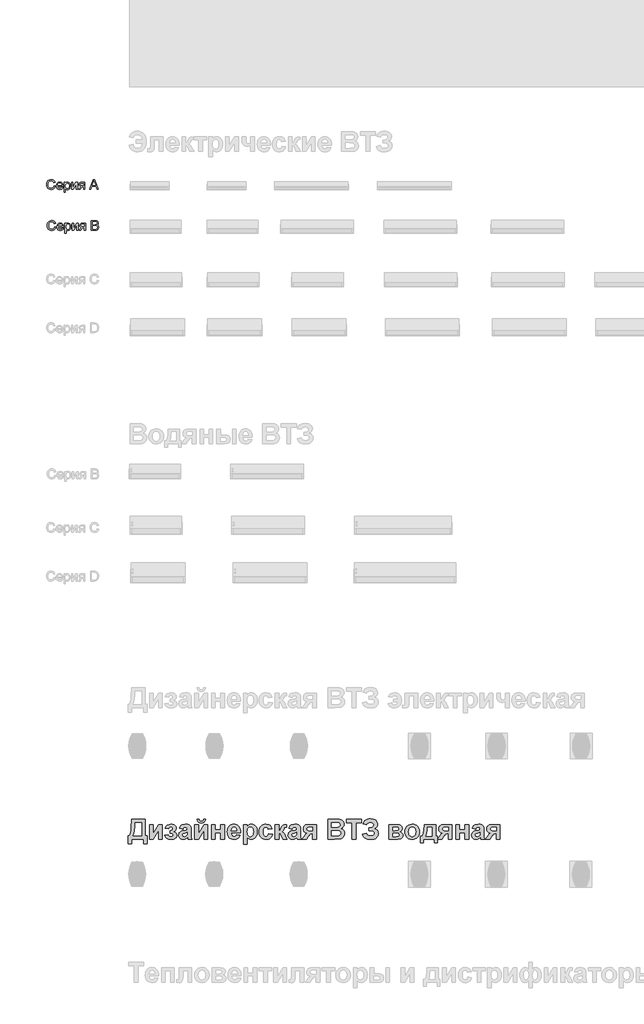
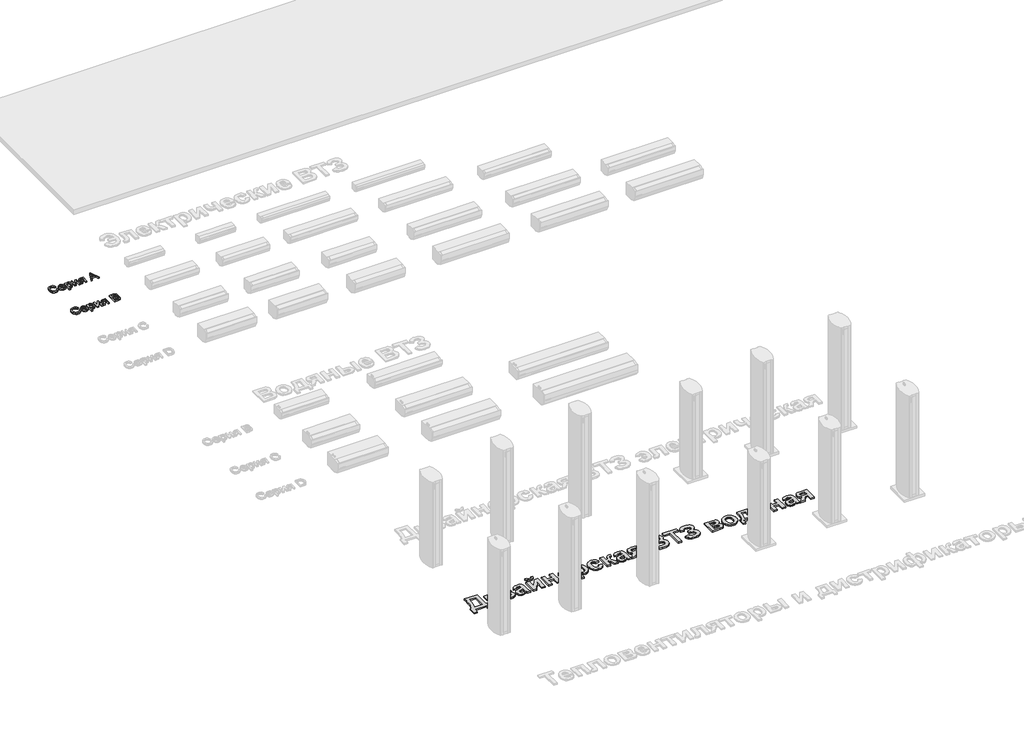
# One storey, part 5 of 8: 3 proxies.
"""IFC4 building model written with IfcOpenShell, lengths in millimetres."""

from ifc_helpers import new_model, si_unit, origin, origin_with_axes, place, context, project, spatial, polyline, outline, extrude, element, save

model = new_model("IFC4")

# Units and contexts
model_context = context("Model", 3, world=origin())
ifc_project = project(units=[si_unit("LENGTHUNIT", "METRE", prefix="MILLI")], contexts=[model_context])

# Site, building, storey
site = spatial("IfcSite", under=ifc_project)
building = spatial("IfcBuilding", under=site)
storey = spatial("IfcBuildingStorey", under=building, Name="Уровень 1", Elevation=0.0)

# Proxies
placement = place(None, origin())
element("IfcBuildingElementProxy", 1, Name="ИЗТТ_Текст2", ObjectType="ИЗТТ_Текст2", at=placement, inside=storey, context=model_context, shape_type="SweptSolid", body=[
    extrude(outline(polyline([(-16894.6382587, 15862.2564624), (-16869.5241811, 15855.7817392), (-16881.112464, 15826.5167265), (-16899.2980973, 15805.1366512), (-16923.1859015, 15792.0584463), (-16951.8806971, 15787.6990447), (-16981.0108198, 15790.9977199), (-17004.1444659, 15800.8937456), (-17021.8763781, 15817.0437651), (-17034.8012988, 15839.1044221), (-17042.6923676, 15865.0401028), (-17045.3227239, 15892.8151934), (-17042.3490111, 15922.110863), (-17033.4278727, 15947.4088815), (-17019.0252926, 15967.90604), (-16999.6072546, 15982.7991294), (-16976.5778417, 15991.8674206), (-16951.3411369, 15994.8901843), (-16923.8051695, 15990.9783725), (-16901.0394054, 15979.2429368), (-16883.755083, 15960.4073787), (-16872.6634408, 15935.1951993), (-16897.7775184, 15929.2109855), (-16906.4840589, 15947.5253775), (-16918.3789101, 15960.0885476), (-16933.6092247, 15967.354217), (-16952.3221555, 15969.7761068), (-16973.8923032, 15967.0905682), (-16991.6119526, 15959.0339526), (-17005.0580395, 15946.4523883), (-17013.8074996, 15930.1920041), (-17018.6083597, 15911.8101671), (-17020.2086464, 15892.8642444), (-17018.3140541, 15869.6631532), (-17012.6302773, 15849.6013217), (-17002.9427181, 15833.4451708), (-16989.0367786, 15821.9611212), (-16972.3655929, 15815.1001219), (-16954.3822947, 15812.8131222), (-16933.4191523, 15815.9278564), (-16915.9508889, 15825.2720591), (-16902.7623194, 15840.7476284), (-16894.6382587, 15862.2564624)])), origin_with_axes(), (0.0, 0.0, 1.0), 30.0),
    extrude(outline(polyline([(-16734.83032, 15834.78794), (-16710.2067518, 15831.6486804), (-16719.0788392, 15813.0951651), (-16733.2361647, 15799.2260138), (-16752.359897, 15790.580787), (-16776.1312053, 15787.6990447), (-16805.5985531, 15792.671583), (-16828.2723467, 15807.5891979), (-16842.7301092, 15831.4831335), (-16847.5493633, 15863.3846338), (-16842.6810582, 15896.3591233), (-16828.076143, 15921.0194797), (-16805.7089177, 15936.3969471), (-16777.5536823, 15941.5227696), (-16750.2752324, 15936.4092098), (-16728.4782242, 15921.0685307), (-16714.1860087, 15896.4572252), (-16709.4219368, 15863.5317866), (-16709.5690896, 15856.7627579), (-16822.4352858, 15856.7627579), (-16818.0881468, 15837.9639879), (-16807.9897861, 15824.1438877), (-16793.4155277, 15815.6458136), (-16775.640696, 15812.8131222), (-16751.0171278, 15818.061572), (-16741.8691288, 15824.8673889), (-16734.83032, 15834.78794)]), holes=[polyline([(-16822.4352858, 15881.8768354), (-16734.5360144, 15881.8768354), (-16737.9327915, 15895.1451127), (-16744.5914556, 15904.6364682), (-16759.233159, 15913.4656361), (-16777.6517842, 15916.408692), (-16794.5804874, 15914.0603786), (-16808.5783973, 15907.0154384), (-16818.308876, 15896.0341609), (-16822.4352858, 15881.8768354)])]), origin_with_axes(), (0.0, 0.0, 1.0), 30.0),
    extrude(outline(polyline([(-16684.3078593, 15734.3316299), (-16684.3078593, 15938.3835099), (-16659.1937818, 15938.3835099), (-16659.1937818, 15913.7599417), (-16641.8297516, 15934.5820626), (-16631.1366483, 15939.7875928), (-16618.3834058, 15941.5227696), (-16601.3995203, 15939.0947484), (-16586.5493504, 15931.8106849), (-16574.4582955, 15920.1120375), (-16565.751755, 15904.4402645), (-16560.4910425, 15885.9358001), (-16558.7374716, 15865.7390786), (-16560.717903, 15844.2609014), (-16566.6591972, 15825.0513299), (-16576.3712819, 15809.0852513), (-16589.6640847, 15797.3375529), (-16605.1457853, 15790.1086717), (-16621.4245636, 15787.6990447), (-16632.9699269, 15789.3115941), (-16643.2767541, 15794.1492423), (-16659.1937818, 15810.4586774), (-16659.1937818, 15734.3316299), (-16684.3078593, 15734.3316299)]), holes=[polyline([(-16659.1937818, 15863.4336847), (-16656.4775864, 15840.9193066), (-16648.3290002, 15825.1739572), (-16636.3053903, 15815.903331), (-16621.9641238, 15812.8131222), (-16607.3898655, 15816.0136956), (-16595.0596873, 15825.6154156), (-16586.6535837, 15841.9371135), (-16583.8515491, 15865.2976202), (-16586.5861386, 15887.689371), (-16594.7899071, 15903.6554495), (-16606.7951229, 15913.2203814), (-16620.9340543, 15916.408692), (-16635.1281679, 15913.0180463), (-16647.5932362, 15902.8461092), (-16656.2936454, 15886.2117116), (-16659.1937818, 15863.4336847)])]), origin_with_axes(), (0.0, 0.0, 1.0), 30.0),
    extrude(outline(polyline([(-16530.4841344, 15938.3835099), (-16505.3700568, 15938.3835099), (-16505.3700568, 15825.8606703), (-16443.6639835, 15938.3835099), (-16411.1922661, 15938.3835099), (-16411.1922661, 15790.8383044), (-16436.3063436, 15790.8383044), (-16436.3063436, 15902.6744309), (-16497.6200095, 15790.8383044), (-16530.4841344, 15790.8383044), (-16530.4841344, 15938.3835099)])), origin_with_axes(), (0.0, 0.0, 1.0), 30.0),
    extrude(outline(polyline([(-16260.5078009, 15938.3835099), (-16260.5078009, 15790.8383044), (-16285.6218784, 15790.8383044), (-16285.6218784, 15847.3449788), (-16299.3070886, 15847.3449788), (-16317.946443, 15844.1566682), (-16335.457626, 15822.7214106), (-16355.4704065, 15790.8383044), (-16384.5085587, 15790.8383044), (-16359.2963793, 15831.158171), (-16348.1618176, 15845.6281962), (-16337.9101726, 15852.0538684), (-16355.0779991, 15857.3145809), (-16367.1445285, 15867.3087084), (-16374.2814392, 15880.6015112), (-16376.6604095, 15895.7582494), (-16373.4107852, 15912.9506013), (-16363.6619123, 15926.5622351), (-16347.7571474, 15935.4281912), (-16326.0398469, 15938.3835099), (-16260.5078009, 15938.3835099)]), holes=[polyline([(-16285.6218784, 15913.2694324), (-16318.731258, 15913.2694324), (-16335.8316394, 15911.8162985), (-16345.5375927, 15907.4568968), (-16351.5463319, 15893.845263), (-16349.3329086, 15884.2741998), (-16342.6926386, 15877.6339298), (-16330.423774, 15873.7527747), (-16311.3245671, 15872.4590564), (-16285.6218784, 15872.4590564), (-16285.6218784, 15913.2694324)])]), origin_with_axes(), (0.0, 0.0, 1.0), 30.0),
    extrude(outline(polyline([(-16164.6132274, 15790.8383044), (-16084.4149525, 15991.7509247), (-16063.0287458, 15991.7509247), (-15982.8304709, 15790.8383044), (-16009.3670255, 15790.8383044), (-16032.3719129, 15853.6234982), (-16115.1208364, 15853.6234982), (-16138.0766729, 15790.8383044), (-16164.6132274, 15790.8383044)]), holes=[polyline([(-16105.899261, 15878.7375757), (-16041.5444373, 15878.7375757), (-16059.6442315, 15928.131865), (-16073.7218492, 15966.6368471), (-16086.229837, 15932.448347), (-16105.899261, 15878.7375757)])]), origin_with_axes(), (0.0, 0.0, 1.0), 30.0),
])
element("IfcBuildingElementProxy", 2, Name="ИЗТТ_Текст2", ObjectType="ИЗТТ_Текст2", at=placement, inside=storey, context=model_context, shape_type="SweptSolid", body=[
    extrude(outline(polyline([(-16881.6825838, 15022.2564624), (-16856.5685062, 15015.7817392), (-16868.1567891, 14986.5167265), (-16886.3424224, 14965.1366512), (-16910.2302266, 14952.0584463), (-16938.9250222, 14947.6990447), (-16968.0551449, 14950.9977199), (-16991.188791, 14960.8937456), (-17008.9207032, 14977.0437651), (-17021.8456239, 14999.1044221), (-17029.7366927, 15025.0401028), (-17032.367049, 15052.8151934), (-17029.3933362, 15082.110863), (-17020.4721978, 15107.4088815), (-17006.0696177, 15127.90604), (-16986.6515797, 15142.7991294), (-16963.6221668, 15151.8674206), (-16938.3854619, 15154.8901843), (-16910.8494946, 15150.9783725), (-16888.0837305, 15139.2429368), (-16870.7994081, 15120.4073787), (-16859.7077659, 15095.1951993), (-16884.8218434, 15089.2109855), (-16893.528384, 15107.5253775), (-16905.4232352, 15120.0885476), (-16920.6535498, 15127.354217), (-16939.3664806, 15129.7761068), (-16960.9366282, 15127.0905682), (-16978.6562777, 15119.0339526), (-16992.1023646, 15106.4523883), (-17000.8518247, 15090.1920041), (-17005.6526848, 15071.8101671), (-17007.2529714, 15052.8642444), (-17005.3583792, 15029.6631532), (-16999.6746023, 15009.6013217), (-16989.9870431, 14993.4451708), (-16976.0811037, 14981.9611212), (-16959.409918, 14975.1001219), (-16941.4266198, 14972.8131222), (-16920.4634774, 14975.9278564), (-16902.995214, 14985.2720591), (-16889.8066445, 15000.7476284), (-16881.6825838, 15022.2564624)])), origin_with_axes(), (0.0, 0.0, 1.0), 30.0),
    extrude(outline(polyline([(-16721.874645, 14994.78794), (-16697.2510768, 14991.6486804), (-16706.1231643, 14973.0951651), (-16720.2804897, 14959.2260138), (-16739.4042221, 14950.580787), (-16763.1755304, 14947.6990447), (-16792.6428782, 14952.671583), (-16815.3166718, 14967.5891979), (-16829.7744342, 14991.4831335), (-16834.5936884, 15023.3846338), (-16829.7253833, 15056.3591233), (-16815.1204681, 15081.0194797), (-16792.7532428, 15096.3969471), (-16764.5980074, 15101.5227696), (-16737.3195575, 15096.4092098), (-16715.5225493, 15081.0685307), (-16701.2303338, 15056.4572252), (-16696.4662619, 15023.5317866), (-16696.6134147, 15016.7627579), (-16809.4796108, 15016.7627579), (-16805.1324719, 14997.9639879), (-16795.0341112, 14984.1438877), (-16780.4598528, 14975.6458136), (-16762.685021, 14972.8131222), (-16738.0614528, 14978.061572), (-16728.9134539, 14984.8673889), (-16721.874645, 14994.78794)]), holes=[polyline([(-16809.4796108, 15041.8768354), (-16721.5803395, 15041.8768354), (-16724.9771165, 15055.1451127), (-16731.6357807, 15064.6364682), (-16746.2774841, 15073.4656361), (-16764.6961093, 15076.408692), (-16781.6248124, 15074.0603786), (-16795.6227223, 15067.0154384), (-16805.3532011, 15056.0341609), (-16809.4796108, 15041.8768354)])]), origin_with_axes(), (0.0, 0.0, 1.0), 30.0),
    extrude(outline(polyline([(-16671.3521844, 14894.3316299), (-16671.3521844, 15098.3835099), (-16646.2381068, 15098.3835099), (-16646.2381068, 15073.7599417), (-16628.8740767, 15094.5820626), (-16618.1809733, 15099.7875928), (-16605.4277308, 15101.5227696), (-16588.4438454, 15099.0947484), (-16573.5936755, 15091.8106849), (-16561.5026206, 15080.1120375), (-16552.7960801, 15064.4402645), (-16547.5353675, 15045.9358001), (-16545.7817967, 15025.7390786), (-16547.7622281, 15004.2609014), (-16553.7035223, 14985.0513299), (-16563.415607, 14969.0852513), (-16576.7084098, 14957.3375529), (-16592.1901104, 14950.1086717), (-16608.4688887, 14947.6990447), (-16620.014252, 14949.3115941), (-16630.3210792, 14954.1492423), (-16646.2381068, 14970.4586774), (-16646.2381068, 14894.3316299), (-16671.3521844, 14894.3316299)]), holes=[polyline([(-16646.2381068, 15023.4336847), (-16643.5219114, 15000.9193066), (-16635.3733253, 14985.1739572), (-16623.3497154, 14975.903331), (-16609.0084489, 14972.8131222), (-16594.4341906, 14976.0136956), (-16582.1040123, 14985.6154156), (-16573.6979088, 15001.9371135), (-16570.8958742, 15025.2976202), (-16573.6304637, 15047.689371), (-16581.8342322, 15063.6554495), (-16593.839448, 15073.2203814), (-16607.9783793, 15076.408692), (-16622.172493, 15073.0180463), (-16634.6375613, 15062.8461092), (-16643.3379704, 15046.2117116), (-16646.2381068, 15023.4336847)])]), origin_with_axes(), (0.0, 0.0, 1.0), 30.0),
    extrude(outline(polyline([(-16517.5284595, 15098.3835099), (-16492.4143819, 15098.3835099), (-16492.4143819, 14985.8606703), (-16430.7083086, 15098.3835099), (-16398.2365912, 15098.3835099), (-16398.2365912, 14950.8383044), (-16423.3506687, 14950.8383044), (-16423.3506687, 15062.6744309), (-16484.6643346, 14950.8383044), (-16517.5284595, 14950.8383044), (-16517.5284595, 15098.3835099)])), origin_with_axes(), (0.0, 0.0, 1.0), 30.0),
    extrude(outline(polyline([(-16247.5521259, 15098.3835099), (-16247.5521259, 14950.8383044), (-16272.6662035, 14950.8383044), (-16272.6662035, 15007.3449788), (-16286.3514137, 15007.3449788), (-16304.9907681, 15004.1566682), (-16322.5019511, 14982.7214106), (-16342.5147316, 14950.8383044), (-16371.5528838, 14950.8383044), (-16346.3407044, 14991.158171), (-16335.2061427, 15005.6281962), (-16324.9544977, 15012.0538684), (-16342.1223242, 15017.3145809), (-16354.1888536, 15027.3087084), (-16361.3257643, 15040.6015112), (-16363.7047345, 15055.7582494), (-16360.4551103, 15072.9506013), (-16350.7062374, 15086.5622351), (-16334.8014725, 15095.4281912), (-16313.084172, 15098.3835099), (-16247.5521259, 15098.3835099)]), holes=[polyline([(-16272.6662035, 15073.2694324), (-16305.775583, 15073.2694324), (-16322.8759644, 15071.8162985), (-16332.5819178, 15067.4568968), (-16338.590657, 15053.845263), (-16336.3772337, 15044.2741998), (-16329.7369637, 15037.6339298), (-16317.4680991, 15033.7527747), (-16298.3688922, 15032.4590564), (-16272.6662035, 15032.4590564), (-16272.6662035, 15073.2694324)])]), origin_with_axes(), (0.0, 0.0, 1.0), 30.0),
    extrude(outline(polyline([(-16128.2602576, 14950.8383044), (-16128.2602576, 15151.7509247), (-16051.5936498, 15151.7509247), (-16030.5078801, 15150.2732653), (-16014.0451609, 15145.8402873), (-16001.4268084, 15138.3416259), (-15991.8741393, 15127.6669167), (-15985.8592687, 15115.1098779), (-15983.8543118, 15101.964228), (-15985.5404376, 15089.8670417), (-15990.598815, 15078.4933567), (-15999.0662323, 15068.5421487), (-16010.9794776, 15060.7123936), (-15996.7485757, 15053.2811773), (-15986.233282, 15041.9749373), (-15979.7401648, 15027.5417004), (-15977.5757924, 15010.7294932), (-15983.4864298, 14983.7269547), (-15998.1281332, 14964.4989891), (-16019.9803237, 14954.2963951), (-16052.182261, 14950.8383044), (-16128.2602576, 14950.8383044)]), holes=[polyline([(-16103.1461801, 15070.1301727), (-16057.283558, 15070.1301727), (-16030.5017488, 15072.2884137), (-16014.3885174, 15081.5835654), (-16008.9683893, 15097.9420515), (-16014.0206354, 15114.325063), (-16028.4906605, 15124.0126222), (-16060.7661743, 15126.6368471), (-16103.1461801, 15126.6368471), (-16103.1461801, 15070.1301727)]), polyline([(-16103.1461801, 14975.9523819), (-16051.6427008, 14975.9523819), (-16033.0033463, 14976.9334005), (-16017.2334715, 14982.4025795), (-16006.7856228, 14993.5616667), (-16002.6898699, 15010.4842385), (-16007.4968613, 15030.0065097), (-16013.7937748, 15037.0637127), (-16023.0705325, 15041.6561062), (-16054.0952474, 15045.0160951), (-16103.1461801, 15045.0160951), (-16103.1461801, 14975.9523819)])]), origin_with_axes(), (0.0, 0.0, 1.0), 30.0),
])
element("IfcBuildingElementProxy", 3, Name="ИЗТТ_Текст1", ObjectType="ИЗТТ_Текст1", at=placement, inside=storey, context=model_context, shape_type="SweptSolid", body=[
    extrude(outline(polyline([(-15301.8566693, 2859.1310896), (-15016.8318211, 2859.1310896), (-15016.8318211, 2522.2835417), (-14984.4426338, 2522.2835417), (-14984.4426338, 2360.3376052), (-15055.6988459, 2360.3376052), (-15055.6988459, 2451.0273296), (-15301.8566693, 2451.0273296), (-15301.8566693, 2360.3376052), (-15373.1128814, 2360.3376052), (-15373.1128814, 2522.2835417), (-15340.7236941, 2522.2835417), (-15320.9991851, 2578.3826263), (-15309.397277, 2642.8320482), (-15303.7418213, 2720.5154896), (-15301.8566693, 2816.3166326), (-15301.8566693, 2859.1310896)]), holes=[polyline([(-15224.1226198, 2787.8748775), (-15226.5518089, 2702.9544771), (-15233.839376, 2630.3824543), (-15245.9853213, 2570.1588092), (-15262.9896446, 2522.2835417), (-15094.5658706, 2522.2835417), (-15094.5658706, 2787.8748775), (-15224.1226198, 2787.8748775)])]), origin_with_axes(), (0.0, 0.0, 1.0), 30.0),
    extrude(outline(polyline([(-14932.6199341, 2749.0078528), (-14854.8858846, 2749.0078528), (-14854.8858846, 2565.7052959), (-14744.7626478, 2749.0078528), (-14667.0285983, 2749.0078528), (-14667.0285983, 2451.0273296), (-14744.7626478, 2451.0273296), (-14744.7626478, 2634.4311027), (-14854.8858846, 2451.0273296), (-14932.6199341, 2451.0273296), (-14932.6199341, 2749.0078528)])), origin_with_axes(), (0.0, 0.0, 1.0), 30.0),
    extrude(outline(polyline([(-14505.0826618, 2574.1062414), (-14505.0826618, 2625.928941), (-14477.3494201, 2628.6111706), (-14468.9611267, 2633.2165082), (-14461.0030022, 2641.6680617), (-14455.1957221, 2652.7891929), (-14453.2599621, 2665.4032631), (-14455.613239, 2679.0421474), (-14462.6730696, 2691.6182615), (-14474.4647581, 2700.6518083), (-14491.0136085, 2703.6629906), (-14504.703101, 2701.967619), (-14516.8237422, 2696.8815045), (-14527.6538767, 2685.4693768), (-14537.4718491, 2664.7959658), (-14608.7280611, 2677.7516407), (-14602.3640919, 2695.9705586), (-14593.1913728, 2711.7602874), (-14581.2099039, 2725.1208272), (-14566.4196852, 2736.0521779), (-14531.7784372, 2750.6273122), (-14492.6330679, 2755.4856902), (-14467.7528582, 2753.9547951), (-14445.8458747, 2749.3621095), (-14426.9121173, 2741.7076336), (-14410.9515862, 2730.9913674), (-14398.2869079, 2717.9597803), (-14389.2407091, 2703.3593419), (-14383.8129898, 2687.1900523), (-14382.00375, 2669.4519115), (-14385.1288005, 2648.3483316), (-14394.503952, 2631.192184), (-14410.6352855, 2616.5411375), (-14434.0288821, 2602.9528613), (-14405.5365189, 2591.6166457), (-14385.2426688, 2575.6244845), (-14373.0967235, 2555.0522898), (-14369.0480751, 2529.9759737), (-14371.0502583, 2513.0791926), (-14377.0568077, 2497.409658), (-14387.0677235, 2482.96737), (-14401.0830057, 2469.7523285), (-14418.8622656, 2458.7260876), (-14440.1651149, 2450.8502013), (-14464.9915535, 2446.1246694), (-14493.3415814, 2444.5494922), (-14540.6854637, 2449.8127351), (-14560.542819, 2456.3917888), (-14577.857117, 2465.6024639), (-14592.6283577, 2477.4447605), (-14604.8565411, 2491.9186786), (-14614.5416672, 2509.0242181), (-14621.683736, 2528.7613791), (-14550.427524, 2541.7170541), (-14540.5462915, 2521.8786768), (-14527.9069172, 2507.7084074), (-14512.5094012, 2499.2062457), (-14494.3537435, 2496.3721918), (-14474.9328831, 2499.332766), (-14459.7884076, 2508.2144885), (-14450.0336954, 2521.0942512), (-14446.7821246, 2536.0489463), (-14449.9577832, 2551.9398913), (-14459.484759, 2563.9846203), (-14474.1484575, 2571.5758361), (-14492.7342841, 2574.1062414), (-14505.0826618, 2574.1062414)])), origin_with_axes(), (0.0, 0.0, 1.0), 30.0),
    extrude(outline(polyline([(-14245.9691634, 2658.3181283), (-14317.2253754, 2671.2738033), (-14301.7772513, 2708.6225849), (-14290.9692579, 2723.121807), (-14278.1053101, 2734.8375833), (-14262.5338288, 2743.8711301), (-14243.6032344, 2750.3236635), (-14195.6647068, 2755.4856902), (-14152.3188648, 2752.3606398), (-14121.6756571, 2742.9854883), (-14100.9769421, 2728.8152188), (-14087.464578, 2711.3048144), (-14080.0251866, 2684.0903059), (-14077.5453894, 2640.807724), (-14077.5453894, 2548.903405), (-14073.4461329, 2491.0077327), (-14058.111877, 2451.0273296), (-14135.8459265, 2451.0273296), (-14143.1334937, 2475.7240849), (-14145.8663314, 2485.5420573), (-14165.9830532, 2467.6394401), (-14187.4661938, 2454.8229375), (-14210.3663614, 2447.1178535), (-14234.734164, 2444.5494922), (-14255.7270386, 2446.1088544), (-14274.3729624, 2450.7869411), (-14290.6719352, 2458.5837523), (-14304.6239572, 2469.499288), (-14315.8051855, 2482.7934046), (-14323.7917771, 2497.7259587), (-14328.583732, 2514.2969501), (-14330.1810503, 2532.5063789), (-14327.3343444, 2556.3427965), (-14318.7942267, 2577.4463763), (-14305.1173863, 2594.8808685), (-14286.8605123, 2607.7100232), (-14261.7841962, 2617.5532996), (-14227.6490293, 2626.0301573), (-14183.4428494, 2636.025258), (-14155.2794389, 2645.3624534), (-14155.2794389, 2653.5609665), (-14157.6959759, 2673.7536004), (-14164.945587, 2687.1647483), (-14178.8754679, 2694.6800519), (-14201.3328146, 2697.1851531), (-14217.4514961, 2695.0343086), (-14229.5721373, 2688.5817752), (-14238.7322043, 2676.7141746), (-14245.9691634, 2658.3181283)]), holes=[polyline([(-14155.2794389, 2587.0619163), (-14199.106058, 2576.2823899), (-14238.3779476, 2563.9846203), (-14248.9297375, 2552.9267494), (-14252.4470008, 2539.1866488), (-14249.625599, 2525.4085922), (-14241.1613934, 2513.6295557), (-14228.3448907, 2505.5449109), (-14212.4665977, 2502.8500293), (-14193.4126462, 2505.9877318), (-14175.3202486, 2515.4008394), (-14164.439506, 2525.9779334), (-14158.1134928, 2538.6805678), (-14155.2794389, 2572.9928631), (-14155.2794389, 2587.0619163)])]), origin_with_axes(), (0.0, 0.0, 1.0), 30.0),
    extrude(outline(polyline([(-13818.431891, 2859.1310896), (-13779.5648662, 2859.1310896), (-13787.9278556, 2826.7039462), (-13795.8764911, 2813.4224816), (-13806.3365539, 2802.0957551), (-13833.2221097, 2786.5717188), (-13867.0156719, 2781.3970401), (-13900.8092342, 2786.5717188), (-13927.69479, 2802.0957551), (-13938.1548528, 2813.4224816), (-13946.1034883, 2826.7039462), (-13954.4664777, 2859.1310896), (-13915.5994529, 2859.1310896), (-13911.1712437, 2842.3165467), (-13901.7328321, 2830.1326454), (-13887.0817856, 2822.73121), (-13867.0156719, 2820.2640648), (-13846.9495583, 2822.73121), (-13832.2985118, 2830.1326454), (-13822.8601002, 2842.3165467), (-13818.431891, 2859.1310896)])), origin_with_axes(), (0.0, 0.0, 1.0), 30.0),
    extrude(outline(polyline([(-13999.8113399, 2749.0078528), (-13922.0772904, 2749.0078528), (-13922.0772904, 2565.7052959), (-13811.9540535, 2749.0078528), (-13734.220004, 2749.0078528), (-13734.220004, 2451.0273296), (-13811.9540535, 2451.0273296), (-13811.9540535, 2634.4311027), (-13922.0772904, 2451.0273296), (-13999.8113399, 2451.0273296), (-13999.8113399, 2749.0078528)])), origin_with_axes(), (0.0, 0.0, 1.0), 30.0),
    extrude(outline(polyline([(-13656.4859545, 2749.0078528), (-13578.751905, 2749.0078528), (-13578.751905, 2638.884616), (-13468.6286682, 2638.884616), (-13468.6286682, 2749.0078528), (-13390.8946186, 2749.0078528), (-13390.8946186, 2451.0273296), (-13468.6286682, 2451.0273296), (-13468.6286682, 2580.5840788), (-13578.751905, 2580.5840788), (-13578.751905, 2451.0273296), (-13656.4859545, 2451.0273296), (-13656.4859545, 2749.0078528)])), origin_with_axes(), (0.0, 0.0, 1.0), 30.0),
    extrude(outline(polyline([(-13144.7367952, 2541.7170541), (-13067.0027456, 2528.7613791), (-13085.930177, 2492.4880198), (-13098.5822032, 2478.0425688), (-13113.35977, 2466.0579369), (-13130.1932909, 2456.6479923), (-13149.01318, 2449.9266033), (-13192.6120626, 2444.5494922), (-13227.8163258, 2447.7188247), (-13258.1242548, 2457.2268225), (-13283.5358496, 2473.0734854), (-13304.0511102, 2495.2588135), (-13316.5386601, 2516.8874525), (-13325.4583387, 2541.185669), (-13330.8101458, 2568.153463), (-13332.5940815, 2597.7908346), (-13330.2281526, 2632.7357312), (-13323.1303658, 2663.6825875), (-13311.3007212, 2690.6314035), (-13294.7392188, 2713.5821792), (-13274.5592369, 2731.9149653), (-13251.8741538, 2745.0098125), (-13226.6839694, 2752.8667208), (-13198.9886839, 2755.4856902), (-13168.2126299, 2752.7971347), (-13140.8652751, 2744.7314679), (-13116.9466194, 2731.28869), (-13096.4566628, 2712.4688009), (-13080.1292229, 2688.0946722), (-13068.6981172, 2657.9891757), (-13062.1633456, 2622.1523112), (-13060.5249082, 2580.5840788), (-13254.860032, 2580.5840788), (-13249.8751336, 2547.8406348), (-13236.5398979, 2523.2957038), (-13216.8786491, 2507.9614479), (-13192.9157113, 2502.8500293), (-13176.5945973, 2505.1526981), (-13163.0569292, 2512.0607044), (-13152.4039231, 2524.0801294), (-13144.7367952, 2541.7170541)]), holes=[polyline([(-13138.2589577, 2625.928941), (-13142.9908155, 2656.6607129), (-13155.5669297, 2679.0168434), (-13173.8364556, 2692.6430757), (-13195.6485489, 2697.1851531), (-13218.6752368, 2692.4026872), (-13237.3496276, 2678.0552894), (-13249.596789, 2655.4081623), (-13253.5442212, 2625.928941), (-13138.2589577, 2625.928941)])]), origin_with_axes(), (0.0, 0.0, 1.0), 30.0),
    extrude(outline(polyline([(-13002.224371, 2749.0078528), (-12924.4903215, 2749.0078528), (-12924.4903215, 2706.0921796), (-12908.4222481, 2726.0570771), (-12887.5464047, 2741.8215019), (-12862.9761697, 2752.0696431), (-12835.8249213, 2755.4856902), (-12812.0106448, 2752.945796), (-12790.0625422, 2745.3261131), (-12769.9806135, 2732.6266417), (-12751.7648586, 2714.8473818), (-12736.6425242, 2692.5386965), (-12725.8408567, 2666.2509488), (-12719.3598563, 2635.9841389), (-12717.1995228, 2601.7382668), (-12719.4294424, 2566.5213516), (-12726.1192013, 2535.4669531), (-12737.2687995, 2508.5750712), (-12752.8782369, 2485.845706), (-12771.663333, 2467.7786124), (-12792.3399069, 2454.8735456), (-12814.9079588, 2447.1305055), (-12839.3674886, 2444.5494922), (-12862.4194805, 2446.9533772), (-12883.1941077, 2454.1650321), (-12903.3361336, 2467.2219233), (-12924.4903215, 2487.1615167), (-12924.4903215, 2340.9040928), (-13002.224371, 2340.9040928), (-13002.224371, 2749.0078528)]), holes=[polyline([(-12924.4903215, 2605.1796179), (-12919.6192914, 2559.6829314), (-12913.5305037, 2542.0586588), (-12905.006201, 2527.8504333), (-12883.3838881, 2509.1001303), (-12870.9690873, 2504.4125546), (-12857.4851903, 2502.8500293), (-12832.9023032, 2508.5813972), (-12812.7982334, 2525.7755009), (-12804.9824442, 2539.0759436), (-12799.3997376, 2556.0517998), (-12794.9335723, 2601.0297533), (-12799.5262579, 2643.5405616), (-12805.2671148, 2660.089412), (-12813.3043145, 2673.5005599), (-12833.8891613, 2691.2640048), (-12858.9022172, 2697.1851531), (-12884.7503069, 2691.377873), (-12905.8159307, 2673.9560328), (-12913.9859767, 2660.9465868), (-12919.8217238, 2645.147369), (-12924.4903215, 2605.1796179)])]), origin_with_axes(), (0.0, 0.0, 1.0), 30.0),
    extrude(outline(polyline([(-12412.7411622, 2664.7959658), (-12490.4752117, 2651.8402909), (-12496.4343161, 2671.615408), (-12507.0240621, 2685.7983294), (-12521.8648889, 2694.3384472), (-12540.5772358, 2697.1851531), (-12565.223383, 2691.845998), (-12584.3026386, 2675.8285327), (-12591.4320555, 2663.3599608), (-12596.524496, 2647.3108655), (-12600.5984485, 2604.4711045), (-12596.3600197, 2556.9753978), (-12591.0619837, 2539.3574512), (-12583.6447333, 2525.826109), (-12563.793704, 2508.5940492), (-12538.1480467, 2502.8500293), (-12518.7271864, 2506.1269041), (-12503.1778461, 2515.9575285), (-12491.575938, 2533.8095376), (-12483.9973742, 2561.1505664), (-12406.2633247, 2548.1948915), (-12413.4275346, 2524.1085965), (-12423.2803001, 2503.16633), (-12435.8216211, 2485.368092), (-12451.0514978, 2470.7138825), (-12469.0331901, 2459.2669617), (-12489.8299583, 2451.0905898), (-12513.4418024, 2446.1847666), (-12539.8687223, 2444.5494922), (-12569.8951437, 2447.1241795), (-12596.7142764, 2454.8482416), (-12620.3261205, 2467.7216783), (-12640.7306759, 2485.7444898), (-12657.1814731, 2508.3157047), (-12668.9320425, 2534.8343518), (-12675.9823841, 2565.3004311), (-12678.332498, 2599.7139426), (-12675.9981992, 2634.5165039), (-12668.9953026, 2665.2387867), (-12657.3238084, 2691.8807911), (-12640.9837164, 2714.442517), (-12620.6582362, 2732.3989053), (-12597.0305771, 2745.2248969), (-12570.1007391, 2752.9204919), (-12539.8687223, 2755.4856902), (-12493.0815291, 2749.8808426), (-12473.6922988, 2742.874783), (-12456.9726461, 2733.0662997), (-12442.6695304, 2720.3921323), (-12430.5299111, 2704.7890209), (-12412.7411622, 2664.7959658)])), origin_with_axes(), (0.0, 0.0, 1.0), 30.0),
    extrude(outline(polyline([(-12347.9627876, 2749.0078528), (-12270.228738, 2749.0078528), (-12270.228738, 2625.928941), (-12253.8190599, 2630.0408496), (-12243.0521856, 2637.923062), (-12234.2590273, 2653.4724023), (-12223.7704975, 2680.5856946), (-12208.2844173, 2716.5427533), (-12191.3813102, 2736.7606913), (-12171.0368519, 2745.9460624), (-12145.2267183, 2749.0078528), (-12114.760639, 2747.6920421), (-12114.4569904, 2697.1851531), (-12139.4067862, 2695.66691), (-12153.3240151, 2691.1121805), (-12162.1804335, 2678.5613704), (-12171.7453654, 2653.4597503), (-12188.0664793, 2619.2739752), (-12198.4474669, 2608.2730384), (-12210.3087415, 2601.3334019), (-12192.6465128, 2593.5081237), (-12176.4013111, 2580.2551261), (-12161.5731363, 2561.5744093), (-12148.1619884, 2537.4659732), (-12145.1255021, 2531.6966492), (-12101.8049641, 2451.0273296), (-12189.1545536, 2451.0273296), (-12225.9972541, 2534.4294869), (-12236.5743481, 2555.2041141), (-12245.6331989, 2566.9198904), (-12255.9319483, 2572.3096536), (-12270.228738, 2574.1062414), (-12270.228738, 2451.0273296), (-12347.9627876, 2451.0273296), (-12347.9627876, 2749.0078528)])), origin_with_axes(), (0.0, 0.0, 1.0), 30.0),
    extrude(outline(polyline([(-11998.1595647, 2658.3181283), (-12069.4157768, 2671.2738033), (-12053.9676527, 2708.6225849), (-12043.1596592, 2723.121807), (-12030.2957115, 2734.8375833), (-12014.7242301, 2743.8711301), (-11995.7936358, 2750.3236635), (-11947.8551082, 2755.4856902), (-11904.5092661, 2752.3606398), (-11873.8660585, 2742.9854883), (-11853.1673435, 2728.8152188), (-11839.6549794, 2711.3048144), (-11832.2155879, 2684.0903059), (-11829.7357908, 2640.807724), (-11829.7357908, 2548.903405), (-11825.6365342, 2491.0077327), (-11810.3022784, 2451.0273296), (-11888.0363279, 2451.0273296), (-11895.323895, 2475.7240849), (-11898.0567327, 2485.5420573), (-11918.1734545, 2467.6394401), (-11939.6565952, 2454.8229375), (-11962.5567627, 2447.1178535), (-11986.9245654, 2444.5494922), (-12007.91744, 2446.1088544), (-12026.5633637, 2450.7869411), (-12042.8623366, 2458.5837523), (-12056.8143586, 2469.499288), (-12067.9955868, 2482.7934046), (-12075.9821784, 2497.7259587), (-12080.7741334, 2514.2969501), (-12082.3714517, 2532.5063789), (-12079.5247458, 2556.3427965), (-12070.984628, 2577.4463763), (-12057.3077876, 2594.8808685), (-12039.0509137, 2607.7100232), (-12013.9745976, 2617.5532996), (-11979.8394307, 2626.0301573), (-11935.6332508, 2636.025258), (-11907.4698403, 2645.3624534), (-11907.4698403, 2653.5609665), (-11909.8863773, 2673.7536004), (-11917.1359884, 2687.1647483), (-11931.0658693, 2694.6800519), (-11953.523216, 2697.1851531), (-11969.6418975, 2695.0343086), (-11981.7625387, 2688.5817752), (-11990.9226057, 2676.7141746), (-11998.1595647, 2658.3181283)]), holes=[polyline([(-11907.4698403, 2587.0619163), (-11951.2964593, 2576.2823899), (-11990.568349, 2563.9846203), (-12001.1201389, 2552.9267494), (-12004.6374022, 2539.1866488), (-12001.8160003, 2525.4085922), (-11993.3517947, 2513.6295557), (-11980.5352921, 2505.5449109), (-11964.6569991, 2502.8500293), (-11945.6030475, 2505.9877318), (-11927.5106499, 2515.4008394), (-11916.6299073, 2525.9779334), (-11910.3038942, 2538.6805678), (-11907.4698403, 2572.9928631), (-11907.4698403, 2587.0619163)])]), origin_with_axes(), (0.0, 0.0, 1.0), 30.0),
    extrude(outline(polyline([(-11499.3660803, 2749.0078528), (-11499.3660803, 2451.0273296), (-11577.1001298, 2451.0273296), (-11577.1001298, 2567.6284039), (-11584.387697, 2567.6284039), (-11606.3263105, 2566.0722047), (-11621.5340461, 2561.403607), (-11634.0342481, 2551.7248069), (-11647.8502608, 2535.1380004), (-11652.6074227, 2529.5711088), (-11704.22769, 2451.0273296), (-11797.3466035, 2451.0273296), (-11740.7667419, 2532.5063789), (-11718.5750878, 2560.5685732), (-11698.5595822, 2573.4989441), (-11727.9755433, 2581.0268997), (-11751.2426197, 2599.5621183), (-11766.3870951, 2626.9284511), (-11771.4352536, 2660.9497498), (-11768.0318586, 2688.8095117), (-11757.8216733, 2712.2663684), (-11741.9686844, 2730.1436816), (-11721.6368781, 2741.2648127), (-11693.5493798, 2747.0720928), (-11654.4293145, 2749.0078528), (-11499.3660803, 2749.0078528)]), holes=[polyline([(-11577.1001298, 2697.1851531), (-11635.400667, 2697.1851531), (-11662.8049559, 2694.9457445), (-11680.644313, 2688.2275185), (-11690.4369813, 2676.2966577), (-11693.7012041, 2658.4193446), (-11690.0068124, 2640.5799875), (-11678.9236374, 2628.5605625), (-11659.4142129, 2621.7284683), (-11630.4410727, 2619.4511036), (-11577.1001298, 2619.4511036), (-11577.1001298, 2697.1851531)])]), origin_with_axes(), (0.0, 0.0, 1.0), 30.0),
    extrude(outline(polyline([(-11266.1639317, 2859.1310896), (-11098.6511037, 2859.1310896), (-11024.5102296, 2855.0824412), (-11001.3570215, 2848.8196882), (-10980.7848268, 2838.128726), (-10963.109946, 2823.0981187), (-10948.64868, 2803.8164307), (-10939.007836, 2781.1060435), (-10935.7942213, 2755.7893389), (-10939.6277852, 2728.2079216), (-10951.1284771, 2702.9544771), (-10969.2082227, 2681.8762013), (-10992.7789477, 2666.82029), (-10962.9707737, 2652.1945476), (-10940.956248, 2629.9775895), (-10927.3679718, 2601.6623546), (-10922.8385464, 2568.7417822), (-10926.0901171, 2541.4007534), (-10935.8448294, 2514.8441502), (-10951.2296934, 2491.3113813), (-10971.3717192, 2473.0418554), (-10996.5112954, 2460.4024811), (-11026.8888106, 2453.7601673), (-11126.6879939, 2451.0273296), (-11266.1639317, 2451.0273296), (-11266.1639317, 2859.1310896)]), holes=[polyline([(-11188.4298822, 2787.8748775), (-11188.4298822, 2697.1851531), (-11129.117183, 2697.1851531), (-11063.3266463, 2698.5009638), (-11042.6152792, 2703.2328217), (-11026.8382025, 2712.5700171), (-11016.8557537, 2726.0570771), (-11013.5282708, 2743.2385288), (-11016.4002808, 2759.6735109), (-11025.0163107, 2772.7430541), (-11039.2751443, 2781.8904691), (-11059.0755654, 2786.5590668), (-11136.4047501, 2787.8748775), (-11188.4298822, 2787.8748775)]), polyline([(-11188.4298822, 2625.928941), (-11188.4298822, 2522.2835417), (-11106.2423194, 2522.2835417), (-11045.3101608, 2524.7127307), (-11027.3189795, 2530.14045), (-11013.0221897, 2540.1482028), (-11003.6849943, 2554.5335567), (-11000.5725959, 2573.0940793), (-11002.9764809, 2589.1874567), (-11010.1881359, 2602.6492127), (-11021.9292163, 2613.1503945), (-11037.9213775, 2620.3620495), (-11066.6667812, 2624.5372182), (-11116.6675891, 2625.928941), (-11188.4298822, 2625.928941)])]), origin_with_axes(), (0.0, 0.0, 1.0), 30.0),
    extrude(outline(polyline([(-10767.3704473, 2451.0273296), (-10767.3704473, 2787.8748775), (-10883.9715216, 2787.8748775), (-10883.9715216, 2859.1310896), (-10573.0353235, 2859.1310896), (-10573.0353235, 2787.8748775), (-10689.6363978, 2787.8748775), (-10689.6363978, 2451.0273296), (-10767.3704473, 2451.0273296)])), origin_with_axes(), (0.0, 0.0, 1.0), 30.0),
    extrude(outline(polyline([(-10469.3899242, 2742.5300153), (-10547.1239737, 2761.9635277), (-10538.838478, 2786.2554182), (-10527.4437468, 2807.3083899), (-10512.9397801, 2825.1224429), (-10495.326578, 2839.6975772), (-10474.6041405, 2851.0337928), (-10450.7724675, 2859.1310896), (-10423.831559, 2863.9894677), (-10393.7814151, 2865.6089271), (-10358.630923, 2863.651026), (-10328.0794425, 2857.7773228), (-10302.1269736, 2847.9878175), (-10280.7735162, 2834.28251), (-10264.1013086, 2817.932929), (-10252.1925888, 2800.2106032), (-10245.047357, 2781.1155325), (-10242.6656131, 2760.647717), (-10246.7901736, 2733.1042557), (-10259.1638553, 2708.3695443), (-10279.7866582, 2686.4435828), (-10308.6585822, 2667.3263711), (-10274.1185504, 2650.46122), (-10249.4470991, 2627.8014409), (-10234.6442284, 2599.2964257), (-10229.7099381, 2564.8955662), (-10232.2498324, 2539.2182789), (-10239.8695152, 2516.1346569), (-10252.5689866, 2495.6447003), (-10270.3482466, 2477.7484091), (-10293.188317, 2463.223883), (-10321.07022, 2452.8492214), (-10353.9939554, 2446.6244245), (-10391.9595233, 2444.5494922), (-10451.00653, 2450.0151675), (-10475.3205615, 2456.8472617), (-10496.1616118, 2466.4121936), (-10514.080044, 2479.7221252), (-10529.6262213, 2497.7892188), (-10542.8001437, 2520.6134742), (-10553.6018111, 2548.1948915), (-10475.8677616, 2574.1062414), (-10460.9130665, 2543.9185066), (-10441.7578987, 2526.6358387), (-10418.0226974, 2518.5132379), (-10389.3279018, 2515.8057042), (-10352.3966371, 2519.9808729), (-10327.0293243, 2532.5063789), (-10312.3403218, 2550.4216482), (-10307.4439877, 2570.7661064), (-10313.0235312, 2593.160193), (-10329.762162, 2610.7465095), (-10357.7104881, 2622.1333332), (-10396.9191176, 2625.928941), (-10417.5672245, 2625.928941), (-10417.5672245, 2684.2294782), (-10407.0407386, 2684.2294782), (-10369.8943894, 2688.2907786), (-10342.6672288, 2700.4746799), (-10325.9665541, 2719.3894592), (-10320.3996626, 2743.6433936), (-10325.0935643, 2763.3299465), (-10339.1752696, 2779.6763645), (-10362.012177, 2790.6836274), (-10392.9716854, 2794.352715), (-10420.1419118, 2791.1137963), (-10441.9350271, 2781.3970401), (-10458.3510312, 2765.2024464), (-10469.3899242, 2742.5300153)])), origin_with_axes(), (0.0, 0.0, 1.0), 30.0),
    extrude(outline(polyline([(-10009.4634645, 2749.0078528), (-9840.8372581, 2749.0078528), (-9795.4544398, 2744.1241706), (-9777.6688539, 2738.019568), (-9763.1538167, 2729.4731242), (-9751.8840243, 2718.4721873), (-9743.8341726, 2705.0041054), (-9739.0042615, 2689.0688782), (-9737.3942912, 2670.666506), (-9740.9368585, 2647.095781), (-9751.5645606, 2626.7892788), (-9767.5567218, 2611.2399385), (-9787.1926666, 2601.9406992), (-9759.5479892, 2591.1738248), (-9739.9753045, 2573.8532008), (-9728.3227883, 2552.281496), (-9724.4386162, 2528.7613791), (-9726.0137935, 2512.2694629), (-9730.7393253, 2497.409658), (-9738.6152117, 2484.1819645), (-9749.6414526, 2472.5863824), (-9763.7484619, 2463.1542968), (-9780.8666535, 2456.4170928), (-9824.1365834, 2451.0273296), (-10009.4634645, 2451.0273296), (-10009.4634645, 2749.0078528)]), holes=[polyline([(-9931.729415, 2625.928941), (-9882.5383368, 2625.928941), (-9851.844521, 2628.1810017), (-9831.0192857, 2634.9371838), (-9819.1010769, 2646.5517439), (-9815.1283407, 2663.3789389), (-9818.8353844, 2678.9915393), (-9829.9565155, 2689.3915049), (-9850.5160582, 2695.2367411), (-9882.5383368, 2697.1851531), (-9931.729415, 2697.1851531), (-9931.729415, 2625.928941)]), polyline([(-9931.729415, 2502.8500293), (-9868.0644187, 2502.8500293), (-9838.382765, 2504.7604853), (-9817.9623946, 2510.4918532), (-9806.120098, 2521.1828154), (-9802.1726658, 2537.9720543), (-9806.6894392, 2555.3306344), (-9820.2397593, 2566.3125932), (-9846.8216665, 2572.1578293), (-9890.4332012, 2574.1062414), (-9931.729415, 2574.1062414), (-9931.729415, 2502.8500293)])]), origin_with_axes(), (0.0, 0.0, 1.0), 30.0),
    extrude(outline(polyline([(-9685.5715915, 2604.268672), (-9680.7764735, 2642.8193961), (-9666.3911196, 2680.1302217), (-9643.2252595, 2712.4814529), (-9612.0886228, 2736.1533941), (-9574.9169696, 2750.6526162), (-9533.6460598, 2755.4856902), (-9501.6585743, 2752.7465266), (-9472.7012492, 2744.5290355), (-9446.7740843, 2730.833217), (-9423.8770797, 2711.6590712), (-9405.1678958, 2688.2971046), (-9391.8041931, 2662.0378241), (-9383.7859714, 2632.8812295), (-9381.1132309, 2600.8273209), (-9383.8144385, 2568.5172088), (-9391.9180613, 2539.0980846), (-9405.4240994, 2512.5699485), (-9424.3325527, 2488.9328004), (-9447.3339365, 2469.515103), (-9473.118766, 2455.6453192), (-9501.6870414, 2447.3234489), (-9533.0387625, 2444.5494922), (-9572.6775609, 2449.1674818), (-9610.4185553, 2463.0214505), (-9642.8077426, 2485.8077499), (-9666.3911196, 2517.2227312), (-9680.7764735, 2556.8488775), (-9685.5715915, 2604.268672)]), holes=[polyline([(-9607.837542, 2600.0175912), (-9602.4604308, 2558.4556848), (-9595.7390418, 2541.8024552), (-9586.3290973, 2527.9010414), (-9574.9454366, 2516.9412236), (-9562.3028994, 2509.1127823), (-9548.4014855, 2504.4157176), (-9533.241195, 2502.8500293), (-9518.0872305, 2504.4157176), (-9504.2047946, 2509.1127823), (-9491.5938874, 2516.9412236), (-9480.2545089, 2527.9010414), (-9470.8888464, 2541.8404113), (-9464.1990875, 2558.6075092), (-9458.8472804, 2600.6248885), (-9464.1990875, 2641.7313219), (-9470.8888464, 2658.2706832), (-9480.2545089, 2672.1341411), (-9491.5938874, 2683.0939588), (-9504.2047946, 2690.9224001), (-9518.0872305, 2695.6194649), (-9533.241195, 2697.1851531), (-9548.4014855, 2695.6194649), (-9562.3028994, 2690.9224001), (-9574.9454366, 2683.0939588), (-9586.3290973, 2672.1341411), (-9595.7390418, 2658.2327272), (-9602.4604308, 2641.5794976), (-9607.837542, 2600.0175912)])]), origin_with_axes(), (0.0, 0.0, 1.0), 30.0),
    extrude(outline(polyline([(-9076.6548702, 2451.0273296), (-9303.3791813, 2451.0273296), (-9303.3791813, 2373.2932801), (-9361.6797185, 2373.2932801), (-9361.6797185, 2509.3278668), (-9329.2905312, 2509.3278668), (-9312.2735558, 2538.8703481), (-9298.4701951, 2581.3432004), (-9288.7407869, 2647.7283823), (-9283.945669, 2749.0078528), (-9050.7435204, 2749.0078528), (-9050.7435204, 2509.3278668), (-9018.3543331, 2509.3278668), (-9018.3543331, 2373.2932801), (-9076.6548702, 2373.2932801), (-9076.6548702, 2451.0273296)]), holes=[polyline([(-9128.4775699, 2509.3278668), (-9128.4775699, 2690.7073156), (-9219.1672944, 2690.7073156), (-9222.6719056, 2629.5727246), (-9229.2383073, 2578.9646195), (-9238.8664993, 2538.8830002), (-9251.5564817, 2509.3278668), (-9128.4775699, 2509.3278668)])]), origin_with_axes(), (0.0, 0.0, 1.0), 30.0),
    extrude(outline(polyline([(-8713.8959725, 2749.0078528), (-8713.8959725, 2451.0273296), (-8791.630022, 2451.0273296), (-8791.630022, 2567.6284039), (-8798.9175891, 2567.6284039), (-8820.8562027, 2566.0722047), (-8836.0639383, 2561.403607), (-8848.5641403, 2551.7248069), (-8862.380153, 2535.1380004), (-8867.1373149, 2529.5711088), (-8918.7575822, 2451.0273296), (-9011.8764956, 2451.0273296), (-8955.2966341, 2532.5063789), (-8933.10498, 2560.5685732), (-8913.0894744, 2573.4989441), (-8942.5054355, 2581.0268997), (-8965.7725118, 2599.5621183), (-8980.9169873, 2626.9284511), (-8985.9651458, 2660.9497498), (-8982.5617507, 2688.8095117), (-8972.3515655, 2712.2663684), (-8956.4985766, 2730.1436816), (-8936.1667703, 2741.2648127), (-8908.079272, 2747.0720928), (-8868.9592067, 2749.0078528), (-8713.8959725, 2749.0078528)]), holes=[polyline([(-8791.630022, 2697.1851531), (-8849.9305591, 2697.1851531), (-8877.3348481, 2694.9457445), (-8895.1742052, 2688.2275185), (-8904.9668735, 2676.2966577), (-8908.2310963, 2658.4193446), (-8904.5367046, 2640.5799875), (-8893.4535296, 2628.5605625), (-8873.944105, 2621.7284683), (-8844.9709648, 2619.4511036), (-8791.630022, 2619.4511036), (-8791.630022, 2697.1851531)])]), origin_with_axes(), (0.0, 0.0, 1.0), 30.0),
    extrude(outline(polyline([(-8636.161923, 2749.0078528), (-8558.4278734, 2749.0078528), (-8558.4278734, 2638.884616), (-8448.3046366, 2638.884616), (-8448.3046366, 2749.0078528), (-8370.5705871, 2749.0078528), (-8370.5705871, 2451.0273296), (-8448.3046366, 2451.0273296), (-8448.3046366, 2580.5840788), (-8558.4278734, 2580.5840788), (-8558.4278734, 2451.0273296), (-8636.161923, 2451.0273296), (-8636.161923, 2749.0078528)])), origin_with_axes(), (0.0, 0.0, 1.0), 30.0),
    extrude(outline(polyline([(-8228.058163, 2658.3181283), (-8299.314375, 2671.2738033), (-8283.8662509, 2708.6225849), (-8273.0582575, 2723.121807), (-8260.1943098, 2734.8375833), (-8244.6228284, 2743.8711301), (-8225.6922341, 2750.3236635), (-8177.7537065, 2755.4856902), (-8134.4078644, 2752.3606398), (-8103.7646567, 2742.9854883), (-8083.0659417, 2728.8152188), (-8069.5535776, 2711.3048144), (-8062.1141862, 2684.0903059), (-8059.634389, 2640.807724), (-8059.634389, 2548.903405), (-8055.5351325, 2491.0077327), (-8040.2008766, 2451.0273296), (-8117.9349262, 2451.0273296), (-8125.2224933, 2475.7240849), (-8127.955331, 2485.5420573), (-8148.0720528, 2467.6394401), (-8169.5551934, 2454.8229375), (-8192.455361, 2447.1178535), (-8216.8231636, 2444.5494922), (-8237.8160383, 2446.1088544), (-8256.461962, 2450.7869411), (-8272.7609349, 2458.5837523), (-8286.7129569, 2469.499288), (-8297.8941851, 2482.7934046), (-8305.8807767, 2497.7259587), (-8310.6727316, 2514.2969501), (-8312.27005, 2532.5063789), (-8309.423344, 2556.3427965), (-8300.8832263, 2577.4463763), (-8287.2063859, 2594.8808685), (-8268.9495119, 2607.7100232), (-8243.8731958, 2617.5532996), (-8209.7380289, 2626.0301573), (-8165.5318491, 2636.025258), (-8137.3684385, 2645.3624534), (-8137.3684385, 2653.5609665), (-8139.7849756, 2673.7536004), (-8147.0345866, 2687.1647483), (-8160.9644676, 2694.6800519), (-8183.4218142, 2697.1851531), (-8199.5404957, 2695.0343086), (-8211.6611369, 2688.5817752), (-8220.8212039, 2676.7141746), (-8228.058163, 2658.3181283)]), holes=[polyline([(-8137.3684385, 2587.0619163), (-8181.1950576, 2576.2823899), (-8220.4669472, 2563.9846203), (-8231.0187371, 2552.9267494), (-8234.5360004, 2539.1866488), (-8231.7145986, 2525.4085922), (-8223.250393, 2513.6295557), (-8210.4338904, 2505.5449109), (-8194.5555974, 2502.8500293), (-8175.5016458, 2505.9877318), (-8157.4092482, 2515.4008394), (-8146.5285056, 2525.9779334), (-8140.2024924, 2538.6805678), (-8137.3684385, 2572.9928631), (-8137.3684385, 2587.0619163)])]), origin_with_axes(), (0.0, 0.0, 1.0), 30.0),
    extrude(outline(polyline([(-7729.2646786, 2749.0078528), (-7729.2646786, 2451.0273296), (-7806.9987281, 2451.0273296), (-7806.9987281, 2567.6284039), (-7814.2862952, 2567.6284039), (-7836.2249088, 2566.0722047), (-7851.4326444, 2561.403607), (-7863.9328464, 2551.7248069), (-7877.7488591, 2535.1380004), (-7882.506021, 2529.5711088), (-7934.1262882, 2451.0273296), (-8027.2452017, 2451.0273296), (-7970.6653402, 2532.5063789), (-7948.473686, 2560.5685732), (-7928.4581805, 2573.4989441), (-7957.8741416, 2581.0268997), (-7981.1412179, 2599.5621183), (-7996.2856934, 2626.9284511), (-8001.3338519, 2660.9497498), (-7997.9304568, 2688.8095117), (-7987.7202716, 2712.2663684), (-7971.8672826, 2730.1436816), (-7951.5354764, 2741.2648127), (-7923.447978, 2747.0720928), (-7884.3279128, 2749.0078528), (-7729.2646786, 2749.0078528)]), holes=[polyline([(-7806.9987281, 2697.1851531), (-7865.2992652, 2697.1851531), (-7892.7035542, 2694.9457445), (-7910.5429112, 2688.2275185), (-7920.3355796, 2676.2966577), (-7923.5998024, 2658.4193446), (-7919.9054107, 2640.5799875), (-7908.8222357, 2628.5605625), (-7889.3128111, 2621.7284683), (-7860.3396709, 2619.4511036), (-7806.9987281, 2619.4511036), (-7806.9987281, 2697.1851531)])]), origin_with_axes(), (0.0, 0.0, 1.0), 30.0),
])

save(model, "model.ifc")
